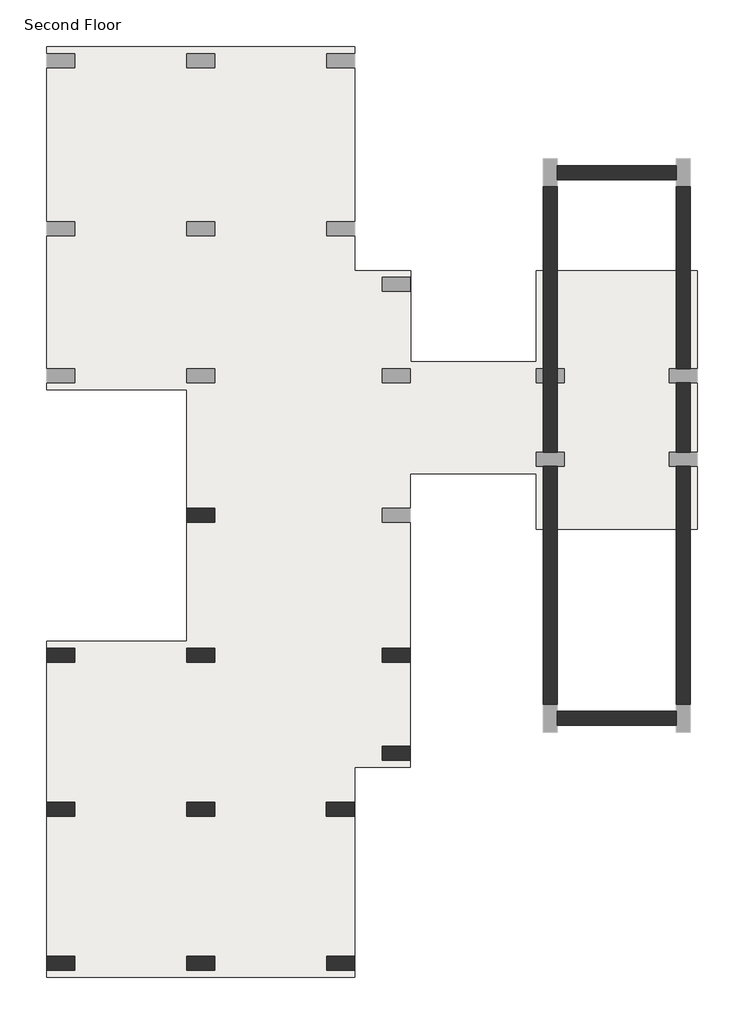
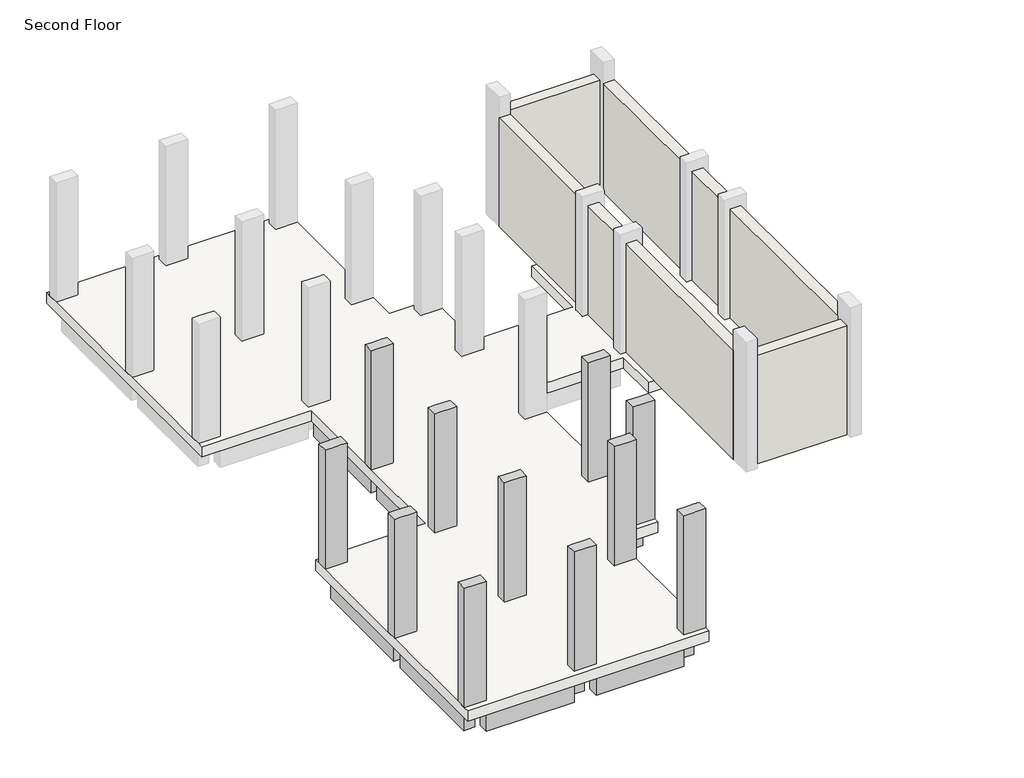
# One storey, part 1 of 2: 16 beams, 11 columns, 7 walls, 1 slab.
"""IFC4 building model written with IfcOpenShell, lengths in millimetres."""

from ifc_helpers import new_model, si_unit, frame, origin, place, context, project, spatial, polyline, outline, extrude, faceted_brep, element, save

model = new_model("IFC4")

# Units and contexts
model_context = context("Model", 3, world=origin())
ifc_project = project(units=[si_unit("LENGTHUNIT", "METRE", prefix="MILLI")], contexts=[model_context])

# Site, building, storey
site = spatial("IfcSite", under=ifc_project)
building = spatial("IfcBuilding", under=site)
storey = spatial("IfcBuildingStorey", under=building, Name="Second Floor", Elevation=3810.0)

# Beams
placement = place(None, origin())
element("IfcBeam", 1, ObjectType="Concrete-Rectangular Beam : 12 x 24", at=placement, inside=storey, context=model_context, shape_type="SweptSolid", body=[
    extrude(outline(polyline([(-10270.7073204, 16606.2572372), (-9965.9073204, 16606.2572372), (-9965.9073204, 13863.0572372), (-10270.7073204, 13863.0572372), (-10270.7073204, 16606.2572372)])), frame((0.0, 0.0, 2895.6), z_axis=(0.0, 0.0, 1.0), x_axis=(1.0, 0.0, 0.0)), (0.0, 0.0, 1.0), 609.6),
])
element("IfcBeam", 2, ObjectType="Concrete-Rectangular Beam : 12 x 24", at=placement, inside=storey, context=model_context, shape_type="SweptSolid", body=[
    extrude(outline(polyline([(-10270.7073204, 13558.2572372), (-9965.9073204, 13558.2572372), (-9965.9073204, 10815.0572372), (-10270.7073204, 10815.0572372), (-10270.7073204, 13558.2572372)])), frame((0.0, 0.0, 2895.6), z_axis=(0.0, 0.0, 1.0), x_axis=(1.0, 0.0, 0.0)), (0.0, 0.0, 1.0), 609.6),
])
element("IfcBeam", 3, ObjectType="Concrete-Rectangular Beam : 12 x 24", at=placement, inside=storey, context=model_context, shape_type="SweptSolid", body=[
    extrude(outline(polyline([(-9813.5073204, 10510.2572372), (-9813.5073204, 10815.0572372), (-6156.6500241, 10815.0572372), (-6156.6500241, 10510.2572372), (-9813.5073204, 10510.2572372)])), frame((0.0, 0.0, 2895.6), z_axis=(0.0, 0.0, 1.0), x_axis=(1.0, 0.0, 0.0)), (0.0, 0.0, 1.0), 609.6),
])
element("IfcBeam", 4, ObjectType="Concrete-Rectangular Beam : 12 x 24", at=placement, inside=storey, context=model_context, shape_type="SweptSolid", body=[
    extrude(outline(polyline([(-12861.5073204, 10510.2572372), (-12861.5073204, 10815.0572372), (-10423.1073204, 10815.0572372), (-10423.1073204, 10510.2572372), (-12861.5073204, 10510.2572372)])), frame((0.0, 0.0, 2895.6), z_axis=(0.0, 0.0, 1.0), x_axis=(1.0, 0.0, 0.0)), (0.0, 0.0, 1.0), 609.6),
])
element("IfcBeam", 5, ObjectType="Concrete-Rectangular Beam : 12 x 24", at=placement, inside=storey, context=model_context, shape_type="SweptSolid", body=[
    extrude(outline(polyline([(-13318.7073204, 10510.2572372), (-13013.9073204, 10510.2572372), (-13013.9073204, 7462.2572372), (-13318.7073204, 7462.2572372), (-13318.7073204, 10510.2572372)])), frame((0.0, 0.0, 2895.6), z_axis=(0.0, 0.0, 1.0), x_axis=(1.0, 0.0, 0.0)), (0.0, 0.0, 1.0), 609.6),
])
element("IfcBeam", 6, ObjectType="Concrete-Rectangular Beam : 12 x 24", at=placement, inside=storey, context=model_context, shape_type="SweptSolid", body=[
    extrude(outline(polyline([(-10270.7073204, 10510.2572372), (-9965.9073204, 10510.2572372), (-9965.9073204, 7462.2572372), (-10270.7073204, 7462.2572372), (-10270.7073204, 10510.2572372)])), frame((0.0, 0.0, 2895.6), z_axis=(0.0, 0.0, 1.0), x_axis=(1.0, 0.0, 0.0)), (0.0, 0.0, 1.0), 609.6),
])
element("IfcBeam", 7, ObjectType="Concrete-Rectangular Beam : 12 x 24", at=placement, inside=storey, context=model_context, shape_type="SweptSolid", body=[
    extrude(outline(polyline([(-6004.2500241, 10510.2572372), (-5699.4500241, 10510.2572372), (-5699.4500241, 8681.4572372), (-6004.2500241, 8681.4572372), (-6004.2500241, 10510.2572372)])), frame((0.0, 0.0, 2895.6), z_axis=(0.0, 0.0, 1.0), x_axis=(1.0, 0.0, 0.0)), (0.0, 0.0, 1.0), 609.6),
])
element("IfcBeam", 8, ObjectType="Concrete-Rectangular Beam : 12 x 24", at=placement, inside=storey, context=model_context, shape_type="Brep", body=[
    faceted_brep([(-7223.4500241, 8681.4572372, 3505.2), (-7223.4500241, 8376.6572372, 3505.2), (-6918.6500241, 8376.6572372, 3505.2), (-6156.6500241, 8376.6572372, 3505.2), (-6156.6500241, 8681.4572372, 3505.2), (-7223.4500241, 8681.4572372, 2895.6), (-6156.6500241, 8681.4572372, 2895.6), (-7223.4500241, 8376.6572372, 2895.6), (-6156.6500241, 8376.6572372, 2895.6), (-6918.6500241, 8376.6572372, 2895.6)], [[[0, 1, 2, 3, 4]], [[5, 0, 4, 6]], [[7, 5, 6, 8, 9]], [[1, 7, 9, 8, 3, 2]], [[4, 3, 8, 6]], [[1, 0, 5, 7]]]),
])
element("IfcBeam", 9, ObjectType="Concrete-Rectangular Beam : 12 x 24", at=placement, inside=storey, context=model_context, shape_type="SweptSolid", body=[
    extrude(outline(polyline([(-7223.4500241, 8376.6572372), (-6918.6500241, 8376.6572372), (-6918.6500241, 7462.2572372), (-7223.4500241, 7462.2572372), (-7223.4500241, 8376.6572372)])), frame((0.0, 0.0, 2895.6), z_axis=(0.0, 0.0, 1.0), x_axis=(1.0, 0.0, 0.0)), (0.0, 0.0, 1.0), 609.6),
])
element("IfcBeam", 10, ObjectType="Concrete-Rectangular Beam : 12 x 24", at=placement, inside=storey, context=model_context, shape_type="SweptSolid", body=[
    extrude(outline(polyline([(-7375.8500241, 7462.2572372), (-7375.8500241, 7157.4572372), (-9813.5073204, 7157.4572372), (-9813.5073204, 7462.2572372), (-7375.8500241, 7462.2572372)])), frame((0.0, 0.0, 2895.6), z_axis=(0.0, 0.0, 1.0), x_axis=(1.0, 0.0, 0.0)), (0.0, 0.0, 1.0), 609.6),
])
element("IfcBeam", 11, ObjectType="Concrete-Rectangular Beam : 12 x 24", at=placement, inside=storey, context=model_context, shape_type="SweptSolid", body=[
    extrude(outline(polyline([(-10423.1073204, 7462.2572372), (-10423.1073204, 7157.4572372), (-12861.5073204, 7157.4572372), (-12861.5073204, 7462.2572372), (-10423.1073204, 7462.2572372)])), frame((0.0, 0.0, 2895.6), z_axis=(0.0, 0.0, 1.0), x_axis=(1.0, 0.0, 0.0)), (0.0, 0.0, 1.0), 609.6),
])
element("IfcBeam", 12, ObjectType="Concrete-Rectangular Beam : 12 x 24", at=placement, inside=storey, context=model_context, shape_type="SweptSolid", body=[
    extrude(outline(polyline([(-13318.7073204, 7157.4572372), (-13013.9073204, 7157.4572372), (-13013.9073204, 4109.4572372), (-13318.7073204, 4109.4572372), (-13318.7073204, 7157.4572372)])), frame((0.0, 0.0, 2895.6), z_axis=(0.0, 0.0, 1.0), x_axis=(1.0, 0.0, 0.0)), (0.0, 0.0, 1.0), 609.6),
])
element("IfcBeam", 13, ObjectType="Concrete-Rectangular Beam : 12 x 24", at=placement, inside=storey, context=model_context, shape_type="SweptSolid", body=[
    extrude(outline(polyline([(-10270.7073204, 7157.4572372), (-9965.9073204, 7157.4572372), (-9965.9073204, 4109.4572372), (-10270.7073204, 4109.4572372), (-10270.7073204, 7157.4572372)])), frame((0.0, 0.0, 2895.6), z_axis=(0.0, 0.0, 1.0), x_axis=(1.0, 0.0, 0.0)), (0.0, 0.0, 1.0), 609.6),
])
element("IfcBeam", 14, ObjectType="Concrete-Rectangular Beam : 12 x 24", at=placement, inside=storey, context=model_context, shape_type="SweptSolid", body=[
    extrude(outline(polyline([(-7223.4500241, 7157.4572372), (-6918.6500241, 7157.4572372), (-6918.6500241, 4109.4572372), (-7223.4500241, 4109.4572372), (-7223.4500241, 7157.4572372)])), frame((0.0, 0.0, 2895.6), z_axis=(0.0, 0.0, 1.0), x_axis=(1.0, 0.0, 0.0)), (0.0, 0.0, 1.0), 609.6),
])
element("IfcBeam", 15, ObjectType="Concrete-Rectangular Beam : 12 x 24", at=placement, inside=storey, context=model_context, shape_type="SweptSolid", body=[
    extrude(outline(polyline([(-9813.5073204, 3804.6572372), (-9813.5073204, 4109.4572372), (-7375.1073204, 4109.4572372), (-7375.1073204, 3804.6572372), (-9813.5073204, 3804.6572372)])), frame((0.0, 0.0, 2895.6), z_axis=(0.0, 0.0, 1.0), x_axis=(1.0, 0.0, 0.0)), (0.0, 0.0, 1.0), 609.6),
])
element("IfcBeam", 16, ObjectType="Concrete-Rectangular Beam : 12 x 24", at=placement, inside=storey, context=model_context, shape_type="SweptSolid", body=[
    extrude(outline(polyline([(-12861.5073204, 3804.6572372), (-12861.5073204, 4109.4572372), (-10423.1073204, 4109.4572372), (-10423.1073204, 3804.6572372), (-12861.5073204, 3804.6572372)])), frame((0.0, 0.0, 2895.6), z_axis=(0.0, 0.0, 1.0), x_axis=(1.0, 0.0, 0.0)), (0.0, 0.0, 1.0), 609.6),
])

# Columns
element("IfcColumn", 17, ObjectType="Concrete-Rectangular-Column : 12 x 24", at=placement, inside=storey, context=model_context, shape_type="Brep", body=[
    faceted_brep([(-10423.1073204, 13863.0572372, 3810.0), (-9813.5073204, 13863.0572372, 3810.0), (-9813.5073204, 13558.2572372, 3810.0), (-10423.1073204, 13558.2572372, 3810.0), (-10423.1073204, 13863.0572372, 7315.2), (-10270.7073204, 13863.0572372, 7315.2), (-9965.9073204, 13863.0572372, 7315.2), (-9813.5073204, 13863.0572372, 7315.2), (-9813.5073204, 13863.0572372, 6705.6), (-9813.5073204, 13558.2572372, 7315.2), (-9813.5073204, 13558.2572372, 6705.6), (-9965.9073204, 13558.2572372, 7315.2), (-10270.7073204, 13558.2572372, 7315.2), (-10423.1073204, 13558.2572372, 7315.2)], [[[0, 1, 2, 3]], [[4, 5, 6, 7, 8, 1, 0]], [[7, 9, 10, 2, 1, 8]], [[9, 11, 12, 13, 3, 2, 10]], [[13, 4, 0, 3]], [[4, 13, 12, 11, 9, 7, 6, 5]]]),
])
element("IfcColumn", 18, ObjectType="Concrete-Rectangular-Column : 12 x 24", at=placement, inside=storey, context=model_context, shape_type="Brep", body=[
    faceted_brep([(-13471.1073204, 10815.0572372, 3810.0), (-12861.5073204, 10815.0572372, 3810.0), (-12861.5073204, 10510.2572372, 3810.0), (-13471.1073204, 10510.2572372, 3810.0), (-13471.1073204, 10815.0572372, 7315.2), (-12861.5073204, 10815.0572372, 7315.2), (-12861.5073204, 10815.0572372, 6705.6), (-12861.5073204, 10510.2572372, 7315.2), (-12861.5073204, 10510.2572372, 6705.6), (-13013.9073204, 10510.2572372, 7315.2), (-13318.7073204, 10510.2572372, 7315.2), (-13471.1073204, 10510.2572372, 7315.2)], [[[0, 1, 2, 3]], [[4, 5, 6, 1, 0]], [[5, 7, 8, 2, 1, 6]], [[7, 9, 10, 11, 3, 2, 8]], [[11, 4, 0, 3]], [[4, 11, 10, 9, 7, 5]]]),
])
element("IfcColumn", 19, ObjectType="Concrete-Rectangular-Column : 12 x 24", at=placement, inside=storey, context=model_context, shape_type="Brep", body=[
    faceted_brep([(-10423.1073204, 10815.0572372, 3810.0), (-9813.5073204, 10815.0572372, 3810.0), (-9813.5073204, 10510.2572372, 3810.0), (-10423.1073204, 10510.2572372, 3810.0), (-10423.1073204, 10815.0572372, 7315.2), (-10270.7073204, 10815.0572372, 7315.2), (-9965.9073204, 10815.0572372, 7315.2), (-9813.5073204, 10815.0572372, 7315.2), (-9813.5073204, 10815.0572372, 6705.6), (-10423.1073204, 10815.0572372, 6705.6), (-9813.5073204, 10510.2572372, 7315.2), (-9813.5073204, 10510.2572372, 6705.6), (-9965.9073204, 10510.2572372, 7315.2), (-10270.7073204, 10510.2572372, 7315.2), (-10423.1073204, 10510.2572372, 7315.2), (-10423.1073204, 10510.2572372, 6705.6)], [[[0, 1, 2, 3]], [[4, 5, 6, 7, 8, 1, 0, 9]], [[7, 10, 11, 2, 1, 8]], [[10, 12, 13, 14, 15, 3, 2, 11]], [[14, 4, 9, 0, 3, 15]], [[4, 14, 13, 12, 10, 7, 6, 5]]]),
])
element("IfcColumn", 20, ObjectType="Concrete-Rectangular-Column : 12 x 24", at=placement, inside=storey, context=model_context, shape_type="Brep", body=[
    faceted_brep([(-6156.6500241, 10815.0572372, 3810.0), (-5547.0500241, 10815.0572372, 3810.0), (-5547.0500241, 10510.2572372, 3810.0), (-6156.6500241, 10510.2572372, 3810.0), (-6156.6500241, 10815.0572372, 7315.2), (-6004.2500241, 10815.0572372, 7315.2), (-5699.4500241, 10815.0572372, 7315.2), (-5547.0500241, 10815.0572372, 7315.2), (-6156.6500241, 10815.0572372, 6705.6), (-5547.0500241, 10510.2572372, 7315.2), (-5699.4500241, 10510.2572372, 7315.2), (-6004.2500241, 10510.2572372, 7315.2), (-6156.6500241, 10510.2572372, 7315.2), (-6156.6500241, 10510.2572372, 6705.6)], [[[0, 1, 2, 3]], [[4, 5, 6, 7, 1, 0, 8]], [[7, 9, 2, 1]], [[9, 10, 11, 12, 13, 3, 2]], [[12, 4, 8, 0, 3, 13]], [[4, 12, 11, 10, 9, 7, 6, 5]]]),
])
element("IfcColumn", 21, ObjectType="Concrete-Rectangular-Column : 12 x 24", at=placement, inside=storey, context=model_context, shape_type="Brep", body=[
    faceted_brep([(-6156.6500241, 8681.4572372, 3810.0), (-5547.0500241, 8681.4572372, 3810.0), (-5547.0500241, 8376.6572372, 3810.0), (-6156.6500241, 8376.6572372, 3810.0), (-6156.6500241, 8681.4572372, 7315.2), (-6004.2500241, 8681.4572372, 7315.2), (-5699.4500241, 8681.4572372, 7315.2), (-5547.0500241, 8681.4572372, 7315.2), (-6156.6500241, 8681.4572372, 6705.6), (-5547.0500241, 8376.6572372, 7315.2), (-6156.6500241, 8376.6572372, 7315.2), (-6156.6500241, 8376.6572372, 6705.6)], [[[0, 1, 2, 3]], [[4, 5, 6, 7, 1, 0, 8]], [[7, 9, 2, 1]], [[9, 10, 11, 3, 2]], [[10, 4, 8, 0, 3, 11]], [[4, 10, 9, 7, 6, 5]]]),
])
element("IfcColumn", 22, ObjectType="Concrete-Rectangular-Column : 12 x 24", at=placement, inside=storey, context=model_context, shape_type="Brep", body=[
    faceted_brep([(-7375.8500241, 7462.2572372, 3810.0), (-6766.2500241, 7462.2572372, 3810.0), (-6766.2500241, 7157.4572372, 3810.0), (-7375.8500241, 7157.4572372, 3810.0), (-7375.8500241, 7462.2572372, 7315.2), (-7223.4500241, 7462.2572372, 7315.2), (-6918.6500241, 7462.2572372, 7315.2), (-6766.2500241, 7462.2572372, 7315.2), (-7375.8500241, 7462.2572372, 6705.6), (-6766.2500241, 7157.4572372, 7315.2), (-6918.6500241, 7157.4572372, 7315.2), (-7223.4500241, 7157.4572372, 7315.2), (-7375.8500241, 7157.4572372, 7315.2), (-7375.8500241, 7157.4572372, 6705.6)], [[[0, 1, 2, 3]], [[4, 5, 6, 7, 1, 0, 8]], [[7, 9, 2, 1]], [[9, 10, 11, 12, 13, 3, 2]], [[12, 4, 8, 0, 3, 13]], [[4, 12, 11, 10, 9, 7, 6, 5]]]),
])
element("IfcColumn", 23, ObjectType="Concrete-Rectangular-Column : 12 x 24", at=placement, inside=storey, context=model_context, shape_type="Brep", body=[
    faceted_brep([(-10423.1073204, 7462.2572372, 3810.0), (-9813.5073204, 7462.2572372, 3810.0), (-9813.5073204, 7157.4572372, 3810.0), (-10423.1073204, 7157.4572372, 3810.0), (-10423.1073204, 7462.2572372, 7315.2), (-10270.7073204, 7462.2572372, 7315.2), (-9965.9073204, 7462.2572372, 7315.2), (-9813.5073204, 7462.2572372, 7315.2), (-9813.5073204, 7462.2572372, 6705.6), (-10423.1073204, 7462.2572372, 6705.6), (-9813.5073204, 7157.4572372, 7315.2), (-9813.5073204, 7157.4572372, 6705.6), (-9965.9073204, 7157.4572372, 7315.2), (-10270.7073204, 7157.4572372, 7315.2), (-10423.1073204, 7157.4572372, 7315.2), (-10423.1073204, 7157.4572372, 6705.6)], [[[0, 1, 2, 3]], [[4, 5, 6, 7, 8, 1, 0, 9]], [[7, 10, 11, 2, 1, 8]], [[10, 12, 13, 14, 15, 3, 2, 11]], [[14, 4, 9, 0, 3, 15]], [[4, 14, 13, 12, 10, 7, 6, 5]]]),
])
element("IfcColumn", 24, ObjectType="Concrete-Rectangular-Column : 12 x 24", at=placement, inside=storey, context=model_context, shape_type="Brep", body=[
    faceted_brep([(-13471.1073204, 7462.2572372, 3810.0), (-12861.5073204, 7462.2572372, 3810.0), (-12861.5073204, 7157.4572372, 3810.0), (-13471.1073204, 7157.4572372, 3810.0), (-13471.1073204, 7462.2572372, 7315.2), (-13318.7073204, 7462.2572372, 7315.2), (-13013.9073204, 7462.2572372, 7315.2), (-12861.5073204, 7462.2572372, 7315.2), (-12861.5073204, 7462.2572372, 6705.6), (-12861.5073204, 7157.4572372, 7315.2), (-12861.5073204, 7157.4572372, 6705.6), (-13013.9073204, 7157.4572372, 7315.2), (-13318.7073204, 7157.4572372, 7315.2), (-13471.1073204, 7157.4572372, 7315.2)], [[[0, 1, 2, 3]], [[4, 5, 6, 7, 8, 1, 0]], [[7, 9, 10, 2, 1, 8]], [[9, 11, 12, 13, 3, 2, 10]], [[13, 4, 0, 3]], [[4, 13, 12, 11, 9, 7, 6, 5]]]),
])
element("IfcColumn", 25, ObjectType="Concrete-Rectangular-Column : 12 x 24", at=placement, inside=storey, context=model_context, shape_type="Brep", body=[
    faceted_brep([(-13471.1073204, 4109.4572372, 3810.0), (-12861.5073204, 4109.4572372, 3810.0), (-12861.5073204, 3804.6572372, 3810.0), (-13471.1073204, 3804.6572372, 3810.0), (-13471.1073204, 4109.4572372, 7315.2), (-13318.7073204, 4109.4572372, 7315.2), (-13013.9073204, 4109.4572372, 7315.2), (-12861.5073204, 4109.4572372, 7315.2), (-12861.5073204, 4109.4572372, 6705.6), (-12861.5073204, 3804.6572372, 7315.2), (-12861.5073204, 3804.6572372, 6705.6), (-13471.1073204, 3804.6572372, 7315.2)], [[[0, 1, 2, 3]], [[4, 5, 6, 7, 8, 1, 0]], [[7, 9, 10, 2, 1, 8]], [[9, 11, 3, 2, 10]], [[11, 4, 0, 3]], [[4, 11, 9, 7, 6, 5]]]),
])
element("IfcColumn", 26, ObjectType="Concrete-Rectangular-Column : 12 x 24", at=placement, inside=storey, context=model_context, shape_type="Brep", body=[
    faceted_brep([(-10423.1073204, 4109.4572372, 3810.0), (-9813.5073204, 4109.4572372, 3810.0), (-9813.5073204, 3804.6572372, 3810.0), (-10423.1073204, 3804.6572372, 3810.0), (-10423.1073204, 4109.4572372, 7315.2), (-10270.7073204, 4109.4572372, 7315.2), (-9965.9073204, 4109.4572372, 7315.2), (-9813.5073204, 4109.4572372, 7315.2), (-9813.5073204, 4109.4572372, 6705.6), (-10423.1073204, 4109.4572372, 6705.6), (-9813.5073204, 3804.6572372, 7315.2), (-9813.5073204, 3804.6572372, 6705.6), (-10423.1073204, 3804.6572372, 7315.2), (-10423.1073204, 3804.6572372, 6705.6)], [[[0, 1, 2, 3]], [[4, 5, 6, 7, 8, 1, 0, 9]], [[7, 10, 11, 2, 1, 8]], [[10, 12, 13, 3, 2, 11]], [[12, 4, 9, 0, 3, 13]], [[4, 12, 10, 7, 6, 5]]]),
])
element("IfcColumn", 27, ObjectType="Concrete-Rectangular-Column : 12 x 24", at=placement, inside=storey, context=model_context, shape_type="Brep", body=[
    faceted_brep([(-7375.1073204, 4109.4572372, 3810.0), (-6765.5073204, 4109.4572372, 3810.0), (-6765.5073204, 3804.6572372, 3810.0), (-7375.1073204, 3804.6572372, 3810.0), (-7375.1073204, 4109.4572372, 7315.2), (-7223.4500241, 4109.4572372, 7315.2), (-6918.6500241, 4109.4572372, 7315.2), (-6765.5073204, 4109.4572372, 7315.2), (-7375.1073204, 4109.4572372, 6705.6), (-6765.5073204, 3804.6572372, 7315.2), (-7375.1073204, 3804.6572372, 7315.2), (-7375.1073204, 3804.6572372, 6705.6)], [[[0, 1, 2, 3]], [[4, 5, 6, 7, 1, 0, 8]], [[7, 9, 2, 1]], [[9, 10, 11, 3, 2]], [[10, 4, 8, 0, 3, 11]], [[4, 10, 9, 7, 6, 5]]]),
])

# Slab
element("IfcSlab", 28, ObjectType="Generic - 12\"", at=placement, inside=storey, context=model_context, shape_type="Brep", body=[
    faceted_brep([(-6765.5073204, 23921.4572372, 3505.2), (-6765.5073204, 23769.0572372, 3505.2), (-6765.5073204, 23464.2572372, 3505.2), (-6765.5073204, 20111.4572372, 3505.2), (-6765.5073204, 19806.6572372, 3505.2), (-6765.5073204, 19044.6572372, 3505.2), (-5546.3073204, 19044.6572372, 3505.2), (-5546.3073204, 17063.4572372, 3505.2), (-2803.8500241, 17063.4572372, 3505.2), (-2803.8500241, 19044.6572372, 3505.2), (699.5860546, 19044.6572372, 3505.2), (699.5860546, 16911.0572372, 3505.2), (699.5860546, 16606.2572372, 3505.2), (699.5860546, 15082.2572372, 3505.2), (699.5860546, 14777.4572372, 3505.2), (699.5860546, 13405.8572372, 3505.2), (-2803.8500241, 13405.8572372, 3505.2), (-2803.8500241, 14625.0572372, 3505.2), (-5547.0500241, 14625.0572372, 3505.2), (-5547.0500241, 13863.0572372, 3505.2), (-5547.0500241, 13558.2572372, 3505.2), (-5547.0500241, 10815.0572372, 3505.2), (-5547.0500241, 10510.2572372, 3505.2), (-5547.0500241, 8681.4572372, 3505.2), (-5547.0500241, 8376.6572372, 3505.2), (-5547.0500241, 8224.2572372, 3505.2), (-6765.5073204, 8224.2572372, 3505.2), (-6765.5073204, 4109.4572372, 3505.2), (-6765.5073204, 3804.6572372, 3505.2), (-6765.5073204, 3652.2572372, 3505.2), (-13471.1073204, 3652.2572372, 3505.2), (-13471.1073204, 3804.6572372, 3505.2), (-13471.1073204, 4109.4572372, 3505.2), (-13471.1073204, 7157.4572372, 3505.2), (-13471.1073204, 7462.2572372, 3505.2), (-13471.1073204, 10510.2572372, 3505.2), (-13471.1073204, 10815.0572372, 3505.2), (-13471.1073204, 10967.4572372, 3505.2), (-10423.1073204, 10967.4572372, 3505.2), (-10423.1073204, 13558.2572372, 3505.2), (-10423.1073204, 13863.0572372, 3505.2), (-10423.1073204, 16453.8572372, 3505.2), (-13471.1073204, 16453.8572372, 3505.2), (-13471.1073204, 16606.2572372, 3505.2), (-13471.1073204, 16911.0572372, 3505.2), (-13471.1073204, 19806.6572372, 3505.2), (-13471.1073204, 20111.4572372, 3505.2), (-13471.1073204, 23464.2572372, 3505.2), (-13471.1073204, 23769.0572372, 3505.2), (-13471.1073204, 23921.4572372, 3505.2), (-6765.5073204, 23921.4572372, 3810.0), (-13471.1073204, 23921.4572372, 3810.0), (-13471.1073204, 23769.0572372, 3810.0), (-13471.1073204, 23464.2572372, 3810.0), (-13471.1073204, 20111.4572372, 3810.0), (-13471.1073204, 19806.6572372, 3810.0), (-13471.1073204, 16911.0572372, 3810.0), (-13471.1073204, 16606.2572372, 3810.0), (-13471.1073204, 16453.8572372, 3810.0), (-10423.1073204, 16453.8572372, 3810.0), (-10423.1073204, 13863.0572372, 3810.0), (-10423.1073204, 13558.2572372, 3810.0), (-10423.1073204, 10967.4572372, 3810.0), (-13471.1073204, 10967.4572372, 3810.0), (-13471.1073204, 10815.0572372, 3810.0), (-13471.1073204, 10510.2572372, 3810.0), (-13471.1073204, 7462.2572372, 3810.0), (-13471.1073204, 7157.4572372, 3810.0), (-13471.1073204, 4109.4572372, 3810.0), (-13471.1073204, 3804.6572372, 3810.0), (-13471.1073204, 3652.2572372, 3810.0), (-6765.5073204, 3652.2572372, 3810.0), (-6765.5073204, 3804.6572372, 3810.0), (-6765.5073204, 4109.4572372, 3810.0), (-6765.5073204, 8224.2572372, 3810.0), (-5547.0500241, 8224.2572372, 3810.0), (-5547.0500241, 8376.6572372, 3810.0), (-5547.0500241, 8681.4572372, 3810.0), (-5547.0500241, 10510.2572372, 3810.0), (-5547.0500241, 10815.0572372, 3810.0), (-5547.0500241, 13558.2572372, 3810.0), (-5547.0500241, 13863.0572372, 3810.0), (-5547.0500241, 14625.0572372, 3810.0), (-2803.8500241, 14625.0572372, 3810.0), (-2803.8500241, 13405.8572372, 3810.0), (699.5860546, 13405.8572372, 3810.0), (699.5860546, 14777.4572372, 3810.0), (699.5860546, 15082.2572372, 3810.0), (699.5860546, 16606.2572372, 3810.0), (699.5860546, 16911.0572372, 3810.0), (699.5860546, 19044.6572372, 3810.0), (-2803.8500241, 19044.6572372, 3810.0), (-2803.8500241, 17063.4572372, 3810.0), (-5546.3073204, 17063.4572372, 3810.0), (-5546.3073204, 19044.6572372, 3810.0), (-6765.5073204, 19044.6572372, 3810.0), (-6765.5073204, 19806.6572372, 3810.0), (-6765.5073204, 20111.4572372, 3810.0), (-6765.5073204, 23464.2572372, 3810.0), (-6765.5073204, 23769.0572372, 3810.0)], [[[0, 1, 2, 3, 4, 5, 6, 7, 8, 9, 10, 11, 12, 13, 14, 15, 16, 17, 18, 19, 20, 21, 22, 23, 24, 25, 26, 27, 28, 29, 30, 31, 32, 33, 34, 35, 36, 37, 38, 39, 40, 41, 42, 43, 44, 45, 46, 47, 48, 49]], [[50, 51, 52, 53, 54, 55, 56, 57, 58, 59, 60, 61, 62, 63, 64, 65, 66, 67, 68, 69, 70, 71, 72, 73, 74, 75, 76, 77, 78, 79, 80, 81, 82, 83, 84, 85, 86, 87, 88, 89, 90, 91, 92, 93, 94, 95, 96, 97, 98, 99]], [[5, 4, 3, 2, 1, 0, 50, 99, 98, 97, 96, 95]], [[6, 5, 95, 94]], [[7, 6, 94, 93]], [[8, 7, 93, 92]], [[9, 8, 92, 91]], [[10, 9, 91, 90]], [[15, 14, 13, 12, 11, 10, 90, 89, 88, 87, 86, 85]], [[16, 15, 85, 84]], [[17, 16, 84, 83]], [[18, 17, 83, 82]], [[25, 24, 23, 22, 21, 20, 19, 18, 82, 81, 80, 79, 78, 77, 76, 75]], [[26, 25, 75, 74]], [[29, 28, 27, 26, 74, 73, 72, 71]], [[30, 29, 71, 70]], [[37, 36, 35, 34, 33, 32, 31, 30, 70, 69, 68, 67, 66, 65, 64, 63]], [[38, 37, 63, 62]], [[41, 40, 39, 38, 62, 61, 60, 59]], [[42, 41, 59, 58]], [[49, 48, 47, 46, 45, 44, 43, 42, 58, 57, 56, 55, 54, 53, 52, 51]], [[0, 49, 51, 50]]]),
])

# Walls
element("IfcWall", 29, ObjectType="Core-Shaft - 12\" Concrete", at=placement, inside=storey, context=model_context, shape_type="SweptSolid", body=[
    extrude(outline(polyline([(242.3860546, 21025.8572372), (-2346.6500241, 21025.8572372), (-2346.6500241, 21330.6572372), (242.3860546, 21330.6572372), (242.3860546, 21025.8572372)])), frame((0.0, 0.0, 3810.0), z_axis=(0.0, 0.0, 1.0), x_axis=(1.0, 0.0, 0.0)), (0.0, 0.0, 1.0), 3200.4),
])
element("IfcWall", 30, ObjectType="Core-Shaft - 12\" Concrete", at=placement, inside=storey, context=model_context, shape_type="SweptSolid", body=[
    extrude(outline(polyline([(242.3860546, 16911.0572372), (242.3860546, 20873.4572372), (547.1860546, 20873.4572372), (547.1860546, 16911.0572372), (242.3860546, 16911.0572372)])), frame((0.0, 0.0, 3810.0), z_axis=(0.0, 0.0, 1.0), x_axis=(1.0, 0.0, 0.0)), (0.0, 0.0, 1.0), 3200.4),
])
element("IfcWall", 31, ObjectType="Core-Shaft - 12\" Concrete", at=placement, inside=storey, context=model_context, shape_type="SweptSolid", body=[
    extrude(outline(polyline([(242.3860546, 15082.2572372), (242.3860546, 16606.2572372), (547.1860546, 16606.2572372), (547.1860546, 15082.2572372), (242.3860546, 15082.2572372)])), frame((0.0, 0.0, 3810.0), z_axis=(0.0, 0.0, 1.0), x_axis=(1.0, 0.0, 0.0)), (0.0, 0.0, 1.0), 3200.4),
])
element("IfcWall", 32, ObjectType="Core-Shaft - 12\" Concrete", at=placement, inside=storey, context=model_context, shape_type="SweptSolid", body=[
    extrude(outline(polyline([(242.3860546, 9595.8572372), (242.3860546, 14777.4572372), (547.1860546, 14777.4572372), (547.1860546, 9595.8572372), (242.3860546, 9595.8572372)])), frame((0.0, 0.0, 3810.0), z_axis=(0.0, 0.0, 1.0), x_axis=(1.0, 0.0, 0.0)), (0.0, 0.0, 1.0), 3200.4),
])
element("IfcWall", 33, ObjectType="Core-Shaft - 12\" Concrete", at=placement, inside=storey, context=model_context, shape_type="SweptSolid", body=[
    extrude(outline(polyline([(-2346.6500241, 9443.4572372), (242.3860546, 9443.4572372), (242.3860546, 9138.6572372), (-2346.6500241, 9138.6572372), (-2346.6500241, 9443.4572372)])), frame((0.0, 0.0, 3810.0), z_axis=(0.0, 0.0, 1.0), x_axis=(1.0, 0.0, 0.0)), (0.0, 0.0, 1.0), 3200.4),
])
element("IfcWall", 34, ObjectType="Core-Shaft - 12\" Concrete", at=placement, inside=storey, context=model_context, shape_type="SweptSolid", body=[
    extrude(outline(polyline([(-2346.6500241, 14777.4572372), (-2346.6500241, 9595.8572372), (-2651.4500241, 9595.8572372), (-2651.4500241, 14777.4572372), (-2346.6500241, 14777.4572372)])), frame((0.0, 0.0, 3810.0), z_axis=(0.0, 0.0, 1.0), x_axis=(1.0, 0.0, 0.0)), (0.0, 0.0, 1.0), 3200.4),
])
element("IfcWall", 35, ObjectType="Core-Shaft - 12\" Concrete", at=placement, inside=storey, context=model_context, shape_type="Brep", body=[
    faceted_brep([(-2346.6500241, 15082.2572372, 3810.0), (-2346.6500241, 16606.2572372, 3810.0), (-2346.6500241, 16911.0572372, 3810.0), (-2346.6500241, 20873.4572372, 3810.0), (-2346.6500241, 20873.4572372, 7010.4), (-2346.6500241, 16911.0572372, 7010.4), (-2346.6500241, 16606.2572372, 7010.4), (-2346.6500241, 15082.2572372, 7010.4), (-2651.4500241, 15082.2572372, 3810.0), (-2651.4500241, 15082.2572372, 7010.4), (-2651.4500241, 16606.2572372, 7010.4), (-2651.4500241, 16911.0572372, 7010.4), (-2651.4500241, 20873.4572372, 7010.4), (-2651.4500241, 20873.4572372, 3810.0), (-2651.4500241, 16911.0572372, 3810.0), (-2651.4500241, 16606.2572372, 3810.0)], [[[0, 1, 2, 3, 4, 5, 6, 7]], [[8, 9, 10, 11, 12, 13, 14, 15]], [[3, 2, 1, 0, 8, 15, 14, 13]], [[4, 3, 13, 12]], [[7, 6, 5, 4, 12, 11, 10, 9]], [[0, 7, 9, 8]]]),
])

save(model, "model.ifc")
